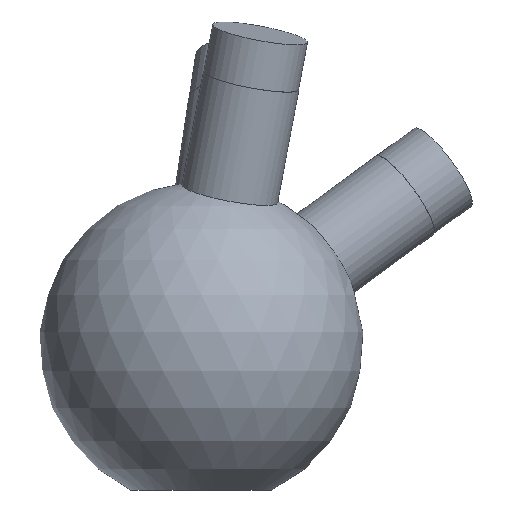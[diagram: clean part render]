
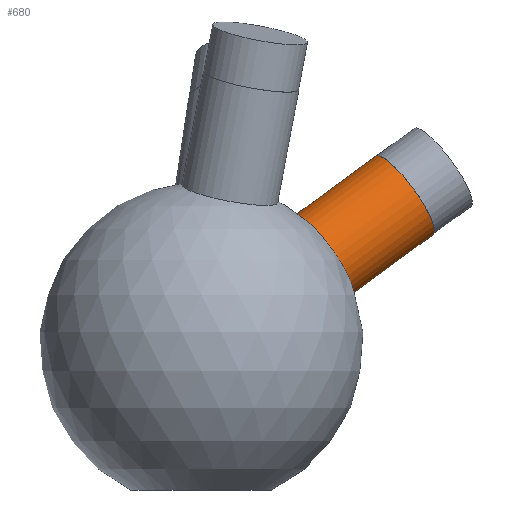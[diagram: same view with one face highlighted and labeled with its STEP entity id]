
A CAD part, left-side view. The second image highlights one B-rep face of the part: STEP entity #680.
In plain terms, the highlighted cylindrical face has radius 6 mm (diameter 12 mm), a full revolution.
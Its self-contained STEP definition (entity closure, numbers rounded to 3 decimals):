
#33 = SPHERICAL_SURFACE('',#34,20.);
#34 = AXIS2_PLACEMENT_3D('',#35,#36,#37);
#35 = CARTESIAN_POINT('',(0.,0.,0.));
#36 = DIRECTION('',(0.,0.,1.));
#37 = DIRECTION('',(1.,0.,-0.));
#435 = EDGE_CURVE('',#436,#436,#438,.T.);
#436 = VERTEX_POINT('',#437);
#437 = CARTESIAN_POINT('',(4.382,-18.526,6.13
    ));
#438 = SURFACE_CURVE('',#439,(#444,#520),.PCURVE_S1.);
#439 = CIRCLE('',#440,6.);
#440 = AXIS2_PLACEMENT_3D('',#441,#442,#443);
#441 = CARTESIAN_POINT('',(4.382,-14.982,10.971
    ));
#442 = DIRECTION('',(0.23,-0.785,0.575));
#443 = DIRECTION('',(0.,-0.591,-0.807
    ));
#444 = PCURVE('',#33,#445);
#445 = DEFINITIONAL_REPRESENTATION('',(#446),#519);
#446 = B_SPLINE_CURVE_WITH_KNOTS('',8,(#447,#448,#449,#450,#451,#452,
    #453,#454,#455,#456,#457,#458,#459,#460,#461,#462,#463,#464,#465,
    #466,#467,#468,#469,#470,#471,#472,#473,#474,#475,#476,#477,#478,
    #479,#480,#481,#482,#483,#484,#485,#486,#487,#488,#489,#490,#491,
    #492,#493,#494,#495,#496,#497,#498,#499,#500,#501,#502,#503,#504,
    #505,#506,#507,#508,#509,#510,#511,#512,#513,#514,#515,#516,#517,
    #518),.UNSPECIFIED.,.T.,.F.,(9,7,7,7,7,7,7,7,7,7,9),(0.,
    0.785,1.473,2.074,2.6,
    3.06,3.463,3.816,4.433,
    5.358,6.283),.UNSPECIFIED.);
#447 = CARTESIAN_POINT('',(4.945,0.311));
#448 = CARTESIAN_POINT('',(4.975,0.307));
#449 = CARTESIAN_POINT('',(5.006,0.306));
#450 = CARTESIAN_POINT('',(5.037,0.307));
#451 = CARTESIAN_POINT('',(5.068,0.312));
#452 = CARTESIAN_POINT('',(5.099,0.319));
#453 = CARTESIAN_POINT('',(5.128,0.329));
#454 = CARTESIAN_POINT('',(5.157,0.341));
#455 = CARTESIAN_POINT('',(5.207,0.369));
#456 = CARTESIAN_POINT('',(5.23,0.384));
#457 = CARTESIAN_POINT('',(5.251,0.401));
#458 = CARTESIAN_POINT('',(5.272,0.419));
#459 = CARTESIAN_POINT('',(5.29,0.439));
#460 = CARTESIAN_POINT('',(5.307,0.46));
#461 = CARTESIAN_POINT('',(5.322,0.482));
#462 = CARTESIAN_POINT('',(5.345,0.526));
#463 = CARTESIAN_POINT('',(5.355,0.547));
#464 = CARTESIAN_POINT('',(5.363,0.569));
#465 = CARTESIAN_POINT('',(5.368,0.591));
#466 = CARTESIAN_POINT('',(5.372,0.613));
#467 = CARTESIAN_POINT('',(5.374,0.636));
#468 = CARTESIAN_POINT('',(5.373,0.659));
#469 = CARTESIAN_POINT('',(5.367,0.701));
#470 = CARTESIAN_POINT('',(5.363,0.72));
#471 = CARTESIAN_POINT('',(5.356,0.739));
#472 = CARTESIAN_POINT('',(5.347,0.758));
#473 = CARTESIAN_POINT('',(5.336,0.776));
#474 = CARTESIAN_POINT('',(5.323,0.794));
#475 = CARTESIAN_POINT('',(5.307,0.81));
#476 = CARTESIAN_POINT('',(5.273,0.839));
#477 = CARTESIAN_POINT('',(5.255,0.852));
#478 = CARTESIAN_POINT('',(5.236,0.864));
#479 = CARTESIAN_POINT('',(5.215,0.874));
#480 = CARTESIAN_POINT('',(5.192,0.884));
#481 = CARTESIAN_POINT('',(5.168,0.892));
#482 = CARTESIAN_POINT('',(5.143,0.899));
#483 = CARTESIAN_POINT('',(5.093,0.91));
#484 = CARTESIAN_POINT('',(5.069,0.914));
#485 = CARTESIAN_POINT('',(5.045,0.917));
#486 = CARTESIAN_POINT('',(5.02,0.918));
#487 = CARTESIAN_POINT('',(4.995,0.918));
#488 = CARTESIAN_POINT('',(4.97,0.918));
#489 = CARTESIAN_POINT('',(4.945,0.916));
#490 = CARTESIAN_POINT('',(4.9,0.91));
#491 = CARTESIAN_POINT('',(4.879,0.906));
#492 = CARTESIAN_POINT('',(4.859,0.902));
#493 = CARTESIAN_POINT('',(4.839,0.896));
#494 = CARTESIAN_POINT('',(4.821,0.89));
#495 = CARTESIAN_POINT('',(4.803,0.884));
#496 = CARTESIAN_POINT('',(4.785,0.876));
#497 = CARTESIAN_POINT('',(4.741,0.854));
#498 = CARTESIAN_POINT('',(4.716,0.838));
#499 = CARTESIAN_POINT('',(4.694,0.82));
#500 = CARTESIAN_POINT('',(4.675,0.8));
#501 = CARTESIAN_POINT('',(4.659,0.78));
#502 = CARTESIAN_POINT('',(4.647,0.758));
#503 = CARTESIAN_POINT('',(4.638,0.736));
#504 = CARTESIAN_POINT('',(4.621,0.68));
#505 = CARTESIAN_POINT('',(4.617,0.645));
#506 = CARTESIAN_POINT('',(4.619,0.61));
#507 = CARTESIAN_POINT('',(4.627,0.575));
#508 = CARTESIAN_POINT('',(4.638,0.541));
#509 = CARTESIAN_POINT('',(4.654,0.509));
#510 = CARTESIAN_POINT('',(4.674,0.478));
#511 = CARTESIAN_POINT('',(4.719,0.423));
#512 = CARTESIAN_POINT('',(4.745,0.397));
#513 = CARTESIAN_POINT('',(4.774,0.374));
#514 = CARTESIAN_POINT('',(4.805,0.354));
#515 = CARTESIAN_POINT('',(4.838,0.338));
#516 = CARTESIAN_POINT('',(4.873,0.325));
#517 = CARTESIAN_POINT('',(4.909,0.316));
#518 = CARTESIAN_POINT('',(4.945,0.311));
#519 = ( GEOMETRIC_REPRESENTATION_CONTEXT(2) 
PARAMETRIC_REPRESENTATION_CONTEXT() REPRESENTATION_CONTEXT('2D SPACE',''
  ) );
#520 = PCURVE('',#521,#526);
#521 = CYLINDRICAL_SURFACE('',#522,6.);
#522 = AXIS2_PLACEMENT_3D('',#523,#524,#525);
#523 = CARTESIAN_POINT('',(0.,0.,0.));
#524 = DIRECTION('',(0.23,-0.785,0.575));
#525 = DIRECTION('',(0.,-0.591,-0.807
    ));
#526 = DEFINITIONAL_REPRESENTATION('',(#527),#531);
#527 = LINE('',#528,#529);
#528 = CARTESIAN_POINT('',(0.,19.079));
#529 = VECTOR('',#530,1.);
#530 = DIRECTION('',(1.,0.));
#531 = ( GEOMETRIC_REPRESENTATION_CONTEXT(2) 
PARAMETRIC_REPRESENTATION_CONTEXT() REPRESENTATION_CONTEXT('2D SPACE',''
  ) );
#680 = ADVANCED_FACE('',(#681),#521,.T.);
#681 = FACE_BOUND('',#682,.T.);
#682 = EDGE_LOOP('',(#683,#706,#733,#734));
#683 = ORIENTED_EDGE('',*,*,#684,.T.);
#684 = EDGE_CURVE('',#436,#685,#687,.T.);
#685 = VERTEX_POINT('',#686);
#686 = CARTESIAN_POINT('',(7.333,-28.619,
    13.52));
#687 = SEAM_CURVE('',#688,(#692,#699),.PCURVE_S1.);
#688 = LINE('',#689,#690);
#689 = CARTESIAN_POINT('',(0.,-3.545,
    -4.841));
#690 = VECTOR('',#691,1.);
#691 = DIRECTION('',(0.23,-0.785,0.575));
#692 = PCURVE('',#521,#693);
#693 = DEFINITIONAL_REPRESENTATION('',(#694),#698);
#694 = LINE('',#695,#696);
#695 = CARTESIAN_POINT('',(6.283,-0.));
#696 = VECTOR('',#697,1.);
#697 = DIRECTION('',(0.,1.));
#698 = ( GEOMETRIC_REPRESENTATION_CONTEXT(2) 
PARAMETRIC_REPRESENTATION_CONTEXT() REPRESENTATION_CONTEXT('2D SPACE',''
  ) );
#699 = PCURVE('',#521,#700);
#700 = DEFINITIONAL_REPRESENTATION('',(#701),#705);
#701 = LINE('',#702,#703);
#702 = CARTESIAN_POINT('',(0.,-0.));
#703 = VECTOR('',#704,1.);
#704 = DIRECTION('',(0.,1.));
#705 = ( GEOMETRIC_REPRESENTATION_CONTEXT(2) 
PARAMETRIC_REPRESENTATION_CONTEXT() REPRESENTATION_CONTEXT('2D SPACE',''
  ) );
#706 = ORIENTED_EDGE('',*,*,#707,.F.);
#707 = EDGE_CURVE('',#685,#685,#708,.T.);
#708 = SURFACE_CURVE('',#709,(#714,#721),.PCURVE_S1.);
#709 = CIRCLE('',#710,6.);
#710 = AXIS2_PLACEMENT_3D('',#711,#712,#713);
#711 = CARTESIAN_POINT('',(7.333,-25.074,
    18.361));
#712 = DIRECTION('',(0.23,-0.785,0.575));
#713 = DIRECTION('',(0.,-0.591,-0.807
    ));
#714 = PCURVE('',#521,#715);
#715 = DEFINITIONAL_REPRESENTATION('',(#716),#720);
#716 = LINE('',#717,#718);
#717 = CARTESIAN_POINT('',(0.,31.932));
#718 = VECTOR('',#719,1.);
#719 = DIRECTION('',(1.,0.));
#720 = ( GEOMETRIC_REPRESENTATION_CONTEXT(2) 
PARAMETRIC_REPRESENTATION_CONTEXT() REPRESENTATION_CONTEXT('2D SPACE',''
  ) );
#721 = PCURVE('',#722,#727);
#722 = PLANE('',#723);
#723 = AXIS2_PLACEMENT_3D('',#724,#725,#726);
#724 = CARTESIAN_POINT('',(7.333,-25.074,
    18.361));
#725 = DIRECTION('',(0.23,-0.785,0.575));
#726 = DIRECTION('',(0.,-0.591,-0.807
    ));
#727 = DEFINITIONAL_REPRESENTATION('',(#728),#732);
#728 = CIRCLE('',#729,6.);
#729 = AXIS2_PLACEMENT_2D('',#730,#731);
#730 = CARTESIAN_POINT('',(0.,0.));
#731 = DIRECTION('',(1.,0.));
#732 = ( GEOMETRIC_REPRESENTATION_CONTEXT(2) 
PARAMETRIC_REPRESENTATION_CONTEXT() REPRESENTATION_CONTEXT('2D SPACE',''
  ) );
#733 = ORIENTED_EDGE('',*,*,#684,.F.);
#734 = ORIENTED_EDGE('',*,*,#435,.T.);
